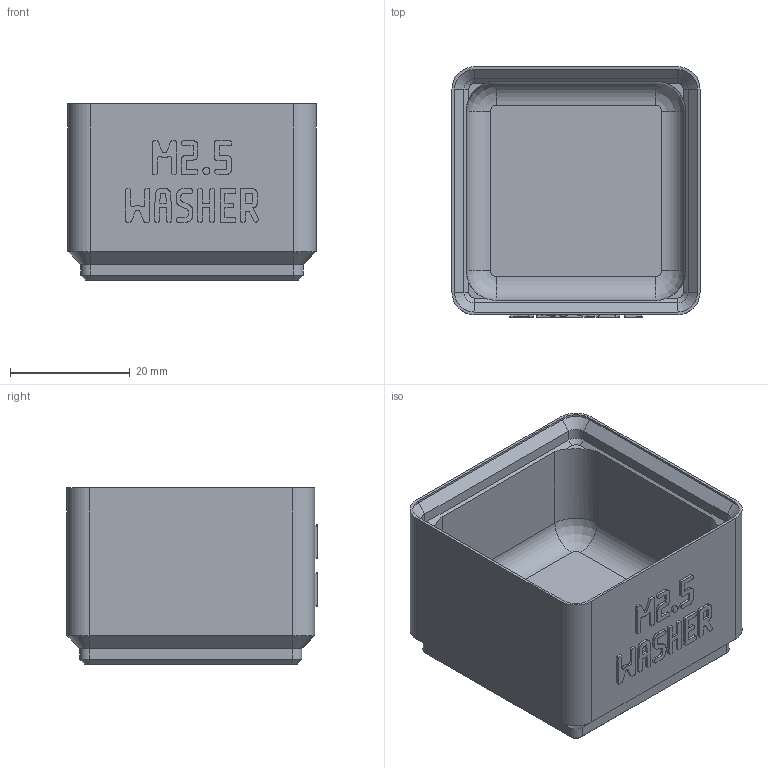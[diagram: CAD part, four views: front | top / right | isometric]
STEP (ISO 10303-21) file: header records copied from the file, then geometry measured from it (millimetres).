
FILE_DESCRIPTION(('Open CASCADE Model'),'2;1');
FILE_NAME('Open CASCADE Shape Model','2026-11-03T10:23:49',('Author'),( 'Open CASCADE'),'Open CASCADE STEP processor 8.0','build123d', 'Unknown');
FILE_SCHEMA(('AUTOMOTIVE_DESIGN { 1 0 10303 214 1 1 1 1 }'));
Products named in the file (1): COMPOUND
Bounding box: 41.5 x 41.9 x 29.5 mm (x, y, z)
Volume: 18952.4 mm3; surface area: 10676 mm2
Topology: 1 solids, 1 shells, 1094 faces, 3181 edges, 2102 vertices
Faces by surface type: plane 1050, cylinder 24, cone 16, revolution 4
Entity records: 74610 total; most frequent: CARTESIAN_POINT 15086, DIRECTION 9591, LINE 7249, VECTOR 7249, ORIENTED_EDGE 6362, PCURVE 6362, DEFINITIONAL_REPRESENTATION 6362, EDGE_CURVE 3181
